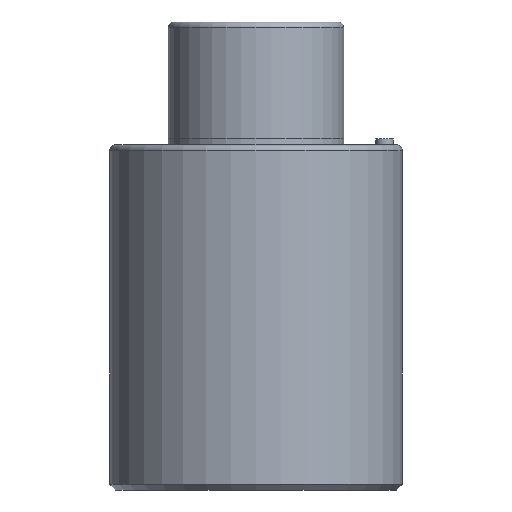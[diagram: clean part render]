
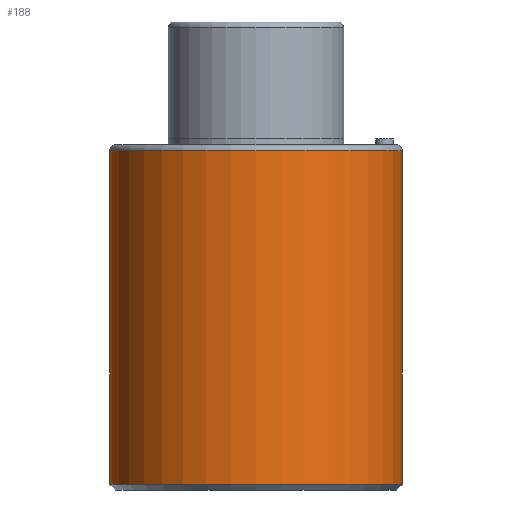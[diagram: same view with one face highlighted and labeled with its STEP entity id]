
A CAD part, front view. The second image highlights one B-rep face of the part: STEP entity #188.
In plain terms, the highlighted cylindrical face has radius 25 mm (diameter 50 mm), a partial arc.
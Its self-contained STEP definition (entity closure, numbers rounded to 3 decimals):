
#124=CYLINDRICAL_SURFACE('',#571,25.);
#140=LINE('',#827,#162);
#141=LINE('',#831,#163);
#162=VECTOR('',#672,1.);
#163=VECTOR('',#675,1.);
#188=ADVANCED_FACE('',(#224),#124,.T.);
#224=FACE_OUTER_BOUND('',#251,.T.);
#251=EDGE_LOOP('',(#313,#314,#315,#316));
#313=ORIENTED_EDGE('',*,*,#463,.T.);
#314=ORIENTED_EDGE('',*,*,#464,.F.);
#315=ORIENTED_EDGE('',*,*,#465,.F.);
#316=ORIENTED_EDGE('',*,*,#458,.T.);
#414=VERTEX_POINT('',#817);
#415=VERTEX_POINT('',#819);
#417=VERTEX_POINT('',#828);
#418=VERTEX_POINT('',#830);
#458=EDGE_CURVE('',#415,#414,#516,.T.);
#463=EDGE_CURVE('',#414,#417,#140,.T.);
#464=EDGE_CURVE('',#418,#417,#521,.T.);
#465=EDGE_CURVE('',#415,#418,#141,.T.);
#516=CIRCLE('',#563,25.);
#521=CIRCLE('',#570,25.);
#563=AXIS2_PLACEMENT_3D('',#818,#658,#659);
#570=AXIS2_PLACEMENT_3D('',#829,#673,#674);
#571=AXIS2_PLACEMENT_3D('',#832,#676,#677);
#658=DIRECTION('',(0.,0.,-1.));
#659=DIRECTION('',(0.,1.,0.));
#672=DIRECTION('',(0.,0.,-1.));
#673=DIRECTION('',(0.,0.,-1.));
#674=DIRECTION('',(0.,1.,0.));
#675=DIRECTION('',(0.,0.,-1.));
#676=DIRECTION('',(0.,0.,-1.));
#677=DIRECTION('',(0.,-1.,0.));
#817=CARTESIAN_POINT('',(-25.,0.,58.));
#818=CARTESIAN_POINT('',(0.,0.,58.));
#819=CARTESIAN_POINT('',(25.,0.,58.));
#827=CARTESIAN_POINT('',(-25.,0.,1.));
#828=CARTESIAN_POINT('',(-25.,0.,1.));
#829=CARTESIAN_POINT('',(0.,0.,1.));
#830=CARTESIAN_POINT('',(25.,0.,1.));
#831=CARTESIAN_POINT('',(25.,0.,1.));
#832=CARTESIAN_POINT('',(0.,0.,58.));
